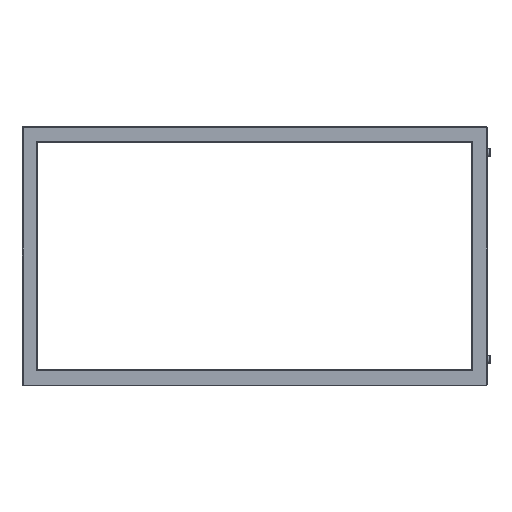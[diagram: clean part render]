
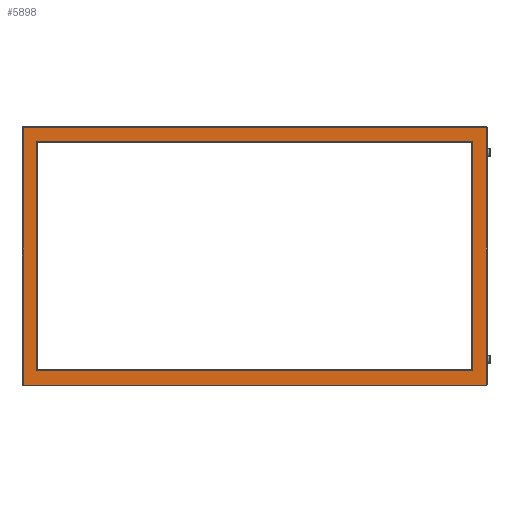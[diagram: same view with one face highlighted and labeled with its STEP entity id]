
A CAD part, left-side view. The second image highlights one B-rep face of the part: STEP entity #5898.
In plain terms, the highlighted planar face has unit normal (-1, 0, 0).
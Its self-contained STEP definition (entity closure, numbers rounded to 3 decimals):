
#71=FACE_BOUND('',#772,.T.);
#387=FACE_OUTER_BOUND('',#771,.T.);
#771=EDGE_LOOP('',(#4280,#4281,#4282,#4283));
#772=EDGE_LOOP('',(#4284,#4285,#4286,#4287));
#1252=LINE('',#8951,#1926);
#1253=LINE('',#8955,#1927);
#1254=LINE('',#8960,#1928);
#1256=LINE('',#8966,#1930);
#1257=LINE('',#8969,#1931);
#1260=LINE('',#8975,#1934);
#1261=LINE('',#8977,#1935);
#1262=LINE('',#8978,#1936);
#1926=VECTOR('',#7313,10.);
#1927=VECTOR('',#7316,10.);
#1928=VECTOR('',#7323,10.);
#1930=VECTOR('',#7329,10.);
#1931=VECTOR('',#7334,10.);
#1934=VECTOR('',#7341,10.);
#1935=VECTOR('',#7342,10.);
#1936=VECTOR('',#7343,10.);
#2571=VERTEX_POINT('',#8947);
#2572=VERTEX_POINT('',#8949);
#2573=VERTEX_POINT('',#8953);
#2574=VERTEX_POINT('',#8954);
#2575=VERTEX_POINT('',#8959);
#2577=VERTEX_POINT('',#8965);
#2578=VERTEX_POINT('',#8974);
#2579=VERTEX_POINT('',#8976);
#3188=EDGE_CURVE('',#2572,#2571,#1252,.T.);
#3189=EDGE_CURVE('',#2573,#2574,#1253,.T.);
#3192=EDGE_CURVE('',#2574,#2575,#1254,.T.);
#3195=EDGE_CURVE('',#2575,#2577,#1256,.T.);
#3197=EDGE_CURVE('',#2577,#2573,#1257,.T.);
#3200=EDGE_CURVE('',#2571,#2578,#1260,.T.);
#3201=EDGE_CURVE('',#2579,#2572,#1261,.T.);
#3202=EDGE_CURVE('',#2578,#2579,#1262,.T.);
#4280=ORIENTED_EDGE('',*,*,#3200,.F.);
#4281=ORIENTED_EDGE('',*,*,#3188,.F.);
#4282=ORIENTED_EDGE('',*,*,#3201,.F.);
#4283=ORIENTED_EDGE('',*,*,#3202,.F.);
#4284=ORIENTED_EDGE('',*,*,#3189,.F.);
#4285=ORIENTED_EDGE('',*,*,#3197,.F.);
#4286=ORIENTED_EDGE('',*,*,#3195,.F.);
#4287=ORIENTED_EDGE('',*,*,#3192,.F.);
#5314=PLANE('',#6398);
#5898=ADVANCED_FACE('',(#387,#71),#5314,.T.);
#6398=AXIS2_PLACEMENT_3D('',#8973,#7339,#7340);
#7313=DIRECTION('',(0.,1.,0.));
#7316=DIRECTION('',(0.,0.,1.));
#7323=DIRECTION('',(0.,1.,0.));
#7329=DIRECTION('',(0.,0.,-1.));
#7334=DIRECTION('',(0.,-1.,0.));
#7339=DIRECTION('center_axis',(-1.,0.,0.));
#7340=DIRECTION('ref_axis',(0.,0.,1.));
#7341=DIRECTION('',(0.,0.,1.));
#7342=DIRECTION('',(0.,0.,-1.));
#7343=DIRECTION('',(0.,-1.,0.));
#8947=CARTESIAN_POINT('',(-750.,898.,-250.));
#8949=CARTESIAN_POINT('',(-750.,2.,-250.));
#8951=CARTESIAN_POINT('',(-750.,0.,-250.));
#8953=CARTESIAN_POINT('',(-750.,28.,-222.));
#8954=CARTESIAN_POINT('',(-750.,28.,222.));
#8955=CARTESIAN_POINT('',(-750.,28.,-194.677));
#8959=CARTESIAN_POINT('',(-750.,872.,222.));
#8960=CARTESIAN_POINT('',(-750.,15.,222.));
#8965=CARTESIAN_POINT('',(-750.,872.,-222.));
#8966=CARTESIAN_POINT('',(-750.,872.,-125.));
#8969=CARTESIAN_POINT('',(-750.,15.,-222.));
#8973=CARTESIAN_POINT('Origin',(-750.,0.,-250.));
#8974=CARTESIAN_POINT('',(-750.,898.,248.));
#8975=CARTESIAN_POINT('',(-750.,898.,-242.5));
#8976=CARTESIAN_POINT('',(-750.,2.,248.));
#8977=CARTESIAN_POINT('',(-750.,2.,-194.677));
#8978=CARTESIAN_POINT('',(-750.,0.,248.));
